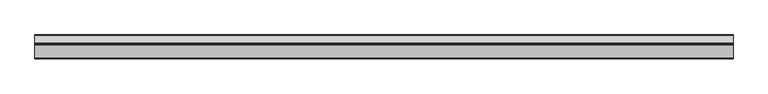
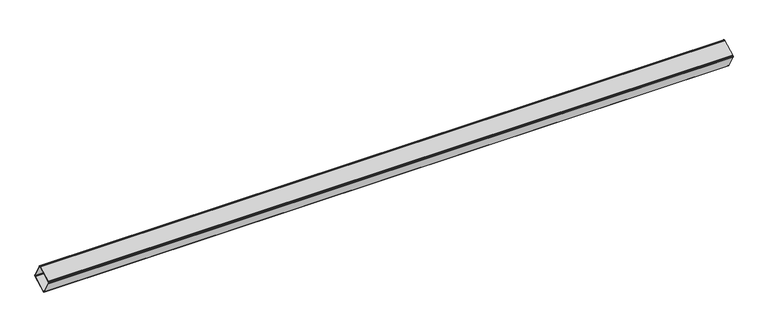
"""IFC4 building model written with IfcOpenShell, lengths in millimetres: beam geometry, Buton 206574 : Buton 206574."""

from ifc_helpers import new_model, si_unit, frame, origin, place, context, project, spatial, polyline, outline, extrude, source, transform, mapped, element, save


def beam_99a33622(model_context):
    return source(origin(), model_context, "Body", "SweptSolid", [
        extrude(outline(polyline([(-26354.0277892, 9778.972559), (-26280.653053, 9819.8644664), (-26278.3030118, 9820.7259025), (-26275.8017914, 9820.8189743), (-26273.3942286, 9820.1345712), (-26271.3159926, 9818.7396873), (-26269.7705155, 9816.7708637), (-26228.8786081, 9743.3961275), (-26228.017172, 9741.0460863), (-26227.9241002, 9738.5448659), (-26228.6085034, 9736.1373032), (-26230.0033872, 9734.0590671), (-26231.9722108, 9732.5135901), (-26305.346947, 9691.6216826), (-26307.6969882, 9690.7602465), (-26310.1982086, 9690.6671748), (-26312.6057714, 9691.3515779), (-26314.6840074, 9692.7464617), (-26316.2294845, 9694.7152854), (-26357.1213919, 9768.0900215), (-26357.982828, 9770.4400627), (-26358.0758998, 9772.9412831), (-26357.3914966, 9775.3488459), (-26355.9966128, 9777.4270819), (-26354.0277892, 9778.972559)]), holes=[polyline([(-26353.6273569, 9770.0372552), (-26312.7354494, 9696.662519), (-26311.9627109, 9695.6781072), (-26310.9235929, 9694.9806653), (-26309.7198115, 9694.6384637), (-26308.4692013, 9694.6849996), (-26307.2941807, 9695.1157177), (-26233.9194445, 9736.0076251), (-26232.9350327, 9736.7803637), (-26232.2375908, 9737.8194817), (-26231.8953892, 9739.023263), (-26231.9419251, 9740.2738732), (-26232.3726431, 9741.4488938), (-26273.2645506, 9814.82363), (-26274.0372891, 9815.8080418), (-26275.0764071, 9816.5054837), (-26276.2801885, 9816.8476853), (-26277.5307987, 9816.8011494), (-26278.7058193, 9816.3704314), (-26352.0805555, 9775.4785239), (-26353.0649673, 9774.7057854), (-26353.7624092, 9773.6666674), (-26354.1046108, 9772.462886), (-26354.0580749, 9771.2122758), (-26353.6273569, 9770.0372552)])]), frame((3772.4999999, 0.0, 0.0), z_axis=(1.0, 0.0, 0.0), x_axis=(0.0, 1.0, 0.0)), (0.0, 0.0, 1.0), 3772.5),
    ])


if __name__ == "__main__":
    model = new_model("IFC4")
    model_context = context("Model", 3, world=origin())
    ifc_project = project(units=[si_unit("LENGTHUNIT", "METRE", prefix="MILLI")], contexts=[model_context])
    site = spatial("IfcSite", under=ifc_project)
    building = spatial("IfcBuilding", under=site)
    placement = place(None, origin())
    beam_shape = beam_99a33622(model_context)
    element("IfcBeam", 1, ObjectType="Buton 206574 : Buton 206574", at=placement, inside=building, context=model_context, shape_type="MappedRepresentation", body=[
        mapped(beam_shape, transform((0.0, 0.0, 0.0), x_axis=(1.0, 0.0, 0.0), y_axis=(0.0, 1.0, 0.0), z_axis=(0.0, 0.0, 1.0))),
    ])
    save(model, "model.ifc")
